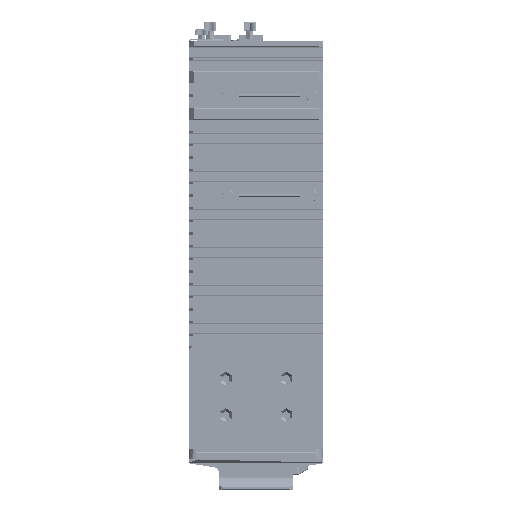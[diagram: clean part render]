
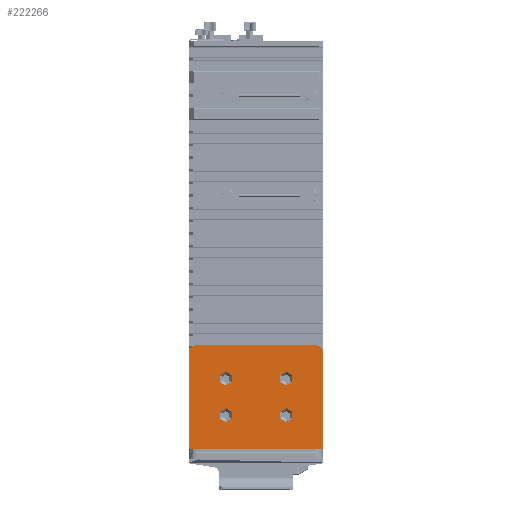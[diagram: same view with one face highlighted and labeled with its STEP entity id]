
A CAD part, left-side view. The second image highlights one B-rep face of the part: STEP entity #222266.
In plain terms, the highlighted planar face has unit normal (-1, 0, 0).
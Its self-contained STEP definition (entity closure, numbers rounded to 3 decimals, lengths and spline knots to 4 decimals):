
#207643=DIRECTION('',(0.,0.,1.));
#207644=VECTOR('',#207643,2.4803);
#207645=CARTESIAN_POINT('',(-8.7402,3.1417,
-6.5039));
#207646=LINE('',#207645,#207644);
#207672=DIRECTION('',(0.,-1.,0.));
#207673=VECTOR('',#207672,3.0709);
#207674=CARTESIAN_POINT('',(-8.7402,2.9449,
-3.8268));
#207675=LINE('',#207674,#207673);
#207781=DIRECTION('',(0.,-1.,0.));
#207782=VECTOR('',#207781,3.4646);
#207783=CARTESIAN_POINT('',(-8.7402,3.1417,
-6.5039));
#207784=LINE('',#207783,#207782);
#207785=CARTESIAN_POINT('',(-8.7402,2.9449,
-4.0236));
#207786=DIRECTION('',(1.,0.,0.));
#207787=DIRECTION('',(0.,1.,0.));
#207788=AXIS2_PLACEMENT_3D('',#207785,#207786,#207787);
#207790=CARTESIAN_POINT('',(-8.7402,-0.126,
-4.0236));
#207791=DIRECTION('',(1.,0.,0.));
#207792=DIRECTION('',(0.,0.,1.));
#207793=AXIS2_PLACEMENT_3D('',#207790,#207791,#207792);
#207795=DIRECTION('',(0.,0.,-1.));
#207796=VECTOR('',#207795,2.4803);
#207797=CARTESIAN_POINT('',(-8.7402,-0.3228,
-4.0236));
#207798=LINE('',#207797,#207796);
#207799=CARTESIAN_POINT('',(-8.7402,0.626,
-5.6378));
#207800=DIRECTION('',(-1.,0.,0.));
#207801=DIRECTION('',(0.,0.,-1.));
#207802=AXIS2_PLACEMENT_3D('',#207799,#207800,#207801);
#207804=CARTESIAN_POINT('',(-8.7402,0.626,
-5.6378));
#207805=DIRECTION('',(-1.,0.,0.));
#207806=DIRECTION('',(0.,0.,1.));
#207807=AXIS2_PLACEMENT_3D('',#207804,#207805,#207806);
#207809=CARTESIAN_POINT('',(-8.7402,0.626,
-4.6929));
#207810=DIRECTION('',(-1.,0.,0.));
#207811=DIRECTION('',(0.,0.,-1.));
#207812=AXIS2_PLACEMENT_3D('',#207809,#207810,#207811);
#207814=CARTESIAN_POINT('',(-8.7402,0.626,
-4.6929));
#207815=DIRECTION('',(-1.,0.,0.));
#207816=DIRECTION('',(0.,0.,1.));
#207817=AXIS2_PLACEMENT_3D('',#207814,#207815,#207816);
#207819=CARTESIAN_POINT('',(-8.7402,2.1929,
-5.6378));
#207820=DIRECTION('',(-1.,0.,0.));
#207821=DIRECTION('',(0.,0.,-1.));
#207822=AXIS2_PLACEMENT_3D('',#207819,#207820,#207821);
#207824=CARTESIAN_POINT('',(-8.7402,2.1929,
-5.6378));
#207825=DIRECTION('',(-1.,0.,0.));
#207826=DIRECTION('',(0.,0.,1.));
#207827=AXIS2_PLACEMENT_3D('',#207824,#207825,#207826);
#207829=CARTESIAN_POINT('',(-8.7402,2.1929,
-4.6929));
#207830=DIRECTION('',(-1.,0.,0.));
#207831=DIRECTION('',(0.,0.,-1.));
#207832=AXIS2_PLACEMENT_3D('',#207829,#207830,#207831);
#207834=CARTESIAN_POINT('',(-8.7402,2.1929,
-4.6929));
#207835=DIRECTION('',(-1.,0.,0.));
#207836=DIRECTION('',(0.,0.,1.));
#207837=AXIS2_PLACEMENT_3D('',#207834,#207835,#207836);
#213637=CARTESIAN_POINT('',(-8.7402,3.1417,
-6.5039));
#213638=VERTEX_POINT('',#213637);
#213651=CARTESIAN_POINT('',(-8.7402,-0.3228,
-4.0236));
#213652=VERTEX_POINT('',#213651);
#213653=CARTESIAN_POINT('',(-8.7402,-0.126,
-3.8268));
#213654=VERTEX_POINT('',#213653);
#213655=CARTESIAN_POINT('',(-8.7402,-0.3228,
-6.5039));
#213656=VERTEX_POINT('',#213655);
#213685=CARTESIAN_POINT('',(-8.7402,2.9449,
-3.8268));
#213686=VERTEX_POINT('',#213685);
#213687=CARTESIAN_POINT('',(-8.7402,3.1417,
-4.0236));
#213688=VERTEX_POINT('',#213687);
#213689=CARTESIAN_POINT('',(-8.7402,0.626,
-5.815));
#213690=CARTESIAN_POINT('',(-8.7402,0.626,
-5.4606));
#213691=VERTEX_POINT('',#213689);
#213692=VERTEX_POINT('',#213690);
#213693=CARTESIAN_POINT('',(-8.7402,0.626,
-4.8701));
#213694=CARTESIAN_POINT('',(-8.7402,0.626,
-4.5157));
#213695=VERTEX_POINT('',#213693);
#213696=VERTEX_POINT('',#213694);
#213697=CARTESIAN_POINT('',(-8.7402,2.1929,
-5.815));
#213698=CARTESIAN_POINT('',(-8.7402,2.1929,
-5.4606));
#213699=VERTEX_POINT('',#213697);
#213700=VERTEX_POINT('',#213698);
#213701=CARTESIAN_POINT('',(-8.7402,2.1929,
-4.8701));
#213702=CARTESIAN_POINT('',(-8.7402,2.1929,
-4.5157));
#213703=VERTEX_POINT('',#213701);
#213704=VERTEX_POINT('',#213702);
#222229=CARTESIAN_POINT('',(-8.7402,1.4094,
-5.1654));
#222230=DIRECTION('',(1.,0.,0.));
#222231=DIRECTION('',(0.,1.,0.));
#222232=AXIS2_PLACEMENT_3D('',#222229,#222230,#222231);
#222233=PLANE('',#222232);
#222234=ORIENTED_EDGE('',*,*,#222177,.F.);
#222235=ORIENTED_EDGE('',*,*,#222048,.T.);
#222236=ORIENTED_EDGE('',*,*,#222082,.T.);
#222237=ORIENTED_EDGE('',*,*,#222102,.T.);
#222238=ORIENTED_EDGE('',*,*,#222124,.T.);
#222239=ORIENTED_EDGE('',*,*,#222144,.T.);
#222240=EDGE_LOOP('',(#222234,#222235,#222236,#222237,#222238,#222239));
#222241=FACE_OUTER_BOUND('',#222240,.F.);
#222243=ORIENTED_EDGE('',*,*,#222242,.T.);
#222245=ORIENTED_EDGE('',*,*,#222244,.T.);
#222246=EDGE_LOOP('',(#222243,#222245));
#222247=FACE_BOUND('',#222246,.F.);
#222249=ORIENTED_EDGE('',*,*,#222248,.T.);
#222251=ORIENTED_EDGE('',*,*,#222250,.T.);
#222252=EDGE_LOOP('',(#222249,#222251));
#222253=FACE_BOUND('',#222252,.F.);
#222255=ORIENTED_EDGE('',*,*,#222254,.T.);
#222257=ORIENTED_EDGE('',*,*,#222256,.T.);
#222258=EDGE_LOOP('',(#222255,#222257));
#222259=FACE_BOUND('',#222258,.F.);
#222261=ORIENTED_EDGE('',*,*,#222260,.T.);
#222263=ORIENTED_EDGE('',*,*,#222262,.T.);
#222264=EDGE_LOOP('',(#222261,#222263));
#222265=FACE_BOUND('',#222264,.F.);
#207789=CIRCLE('',#207788,0.1969);
#207794=CIRCLE('',#207793,0.1969);
#207803=CIRCLE('',#207802,0.1772);
#207808=CIRCLE('',#207807,0.1772);
#207813=CIRCLE('',#207812,0.1772);
#207818=CIRCLE('',#207817,0.1772);
#207823=CIRCLE('',#207822,0.1772);
#207828=CIRCLE('',#207827,0.1772);
#207833=CIRCLE('',#207832,0.1772);
#207838=CIRCLE('',#207837,0.1772);
#222048=EDGE_CURVE('',#213638,#213688,#207646,.T.);
#222082=EDGE_CURVE('',#213688,#213686,#207789,.T.);
#222102=EDGE_CURVE('',#213686,#213654,#207675,.T.);
#222124=EDGE_CURVE('',#213654,#213652,#207794,.T.);
#222144=EDGE_CURVE('',#213652,#213656,#207798,.T.);
#222177=EDGE_CURVE('',#213638,#213656,#207784,.T.);
#222242=EDGE_CURVE('',#213691,#213692,#207803,.T.);
#222244=EDGE_CURVE('',#213692,#213691,#207808,.T.);
#222248=EDGE_CURVE('',#213695,#213696,#207813,.T.);
#222250=EDGE_CURVE('',#213696,#213695,#207818,.T.);
#222254=EDGE_CURVE('',#213699,#213700,#207823,.T.);
#222256=EDGE_CURVE('',#213700,#213699,#207828,.T.);
#222260=EDGE_CURVE('',#213703,#213704,#207833,.T.);
#222262=EDGE_CURVE('',#213704,#213703,#207838,.T.);
#222266=ADVANCED_FACE('',(#222241,#222247,#222253,#222259,#222265),#222233,.F.);
